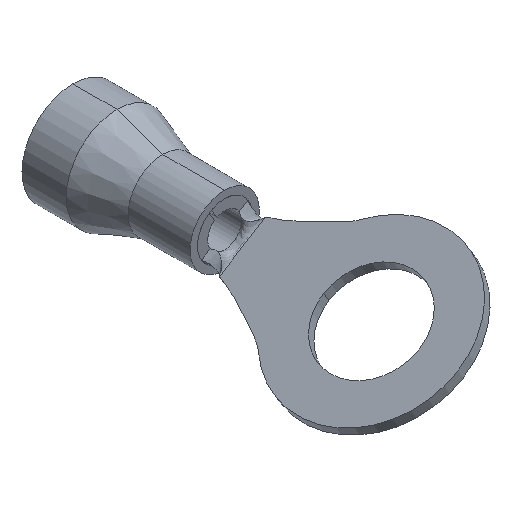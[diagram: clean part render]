
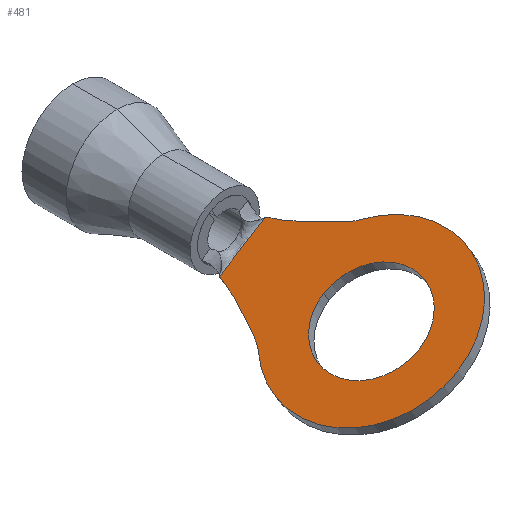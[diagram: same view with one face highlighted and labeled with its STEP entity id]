
A CAD part, isometric view. The second image highlights one B-rep face of the part: STEP entity #481.
In plain terms, the highlighted planar face has unit normal (-0.525, 0, 0.851) as drawn and (0, 1, 0) by its records, which use the part's own axes.
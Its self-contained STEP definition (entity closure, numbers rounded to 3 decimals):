
#28 = EDGE_CURVE ( 'NONE', #1251, #1223, #411, .T. ) ;
#40 = ORIENTED_EDGE ( 'NONE', *, *, #1105, .F. ) ;
#46 = CIRCLE ( 'NONE', #994, 3.25 ) ;
#54 = DIRECTION ( 'NONE',  ( 0., 0., 1. ) ) ;
#64 = CARTESIAN_POINT ( 'NONE',  ( 1.844, -0.85, 5.025 ) ) ;
#83 = CARTESIAN_POINT ( 'NONE',  ( 4.085, -0.85, 9.563 ) ) ;
#92 = LINE ( 'NONE', #225, #1411 ) ;
#121 = CARTESIAN_POINT ( 'NONE',  ( -1.834, -0.85, 5.013 ) ) ;
#161 = EDGE_CURVE ( 'NONE', #1285, #372, #46, .T. ) ;
#189 = CARTESIAN_POINT ( 'NONE',  ( 1.828, -0.85, 5.009 ) ) ;
#193 = B_SPLINE_CURVE_WITH_KNOTS ( 'NONE', 3,
 ( #83, #1466, #321, #952 ),
 .UNSPECIFIED., .F., .F.,
 ( 4, 4 ),
 ( 0., 0.977 ),
 .UNSPECIFIED. ) ;
#225 = CARTESIAN_POINT ( 'NONE',  ( 1.85, -0.85, 5. ) ) ;
#245 = CARTESIAN_POINT ( 'NONE',  ( -1.848, -0.85, 5.03 ) ) ;
#249 = DIRECTION ( 'NONE',  ( 0., 1., 0. ) ) ;
#272 = CARTESIAN_POINT ( 'NONE',  ( 0., -0.85, 17. ) ) ;
#279 = CARTESIAN_POINT ( 'NONE',  ( -2.78, -0.85, 7.382 ) ) ;
#280 = DIRECTION ( 'NONE',  ( 0., 1., 0. ) ) ;
#297 = DIRECTION ( 'NONE',  ( 0., 1., 0. ) ) ;
#303 = CARTESIAN_POINT ( 'NONE',  ( 1.862, -0.85, 5.066 ) ) ;
#306 = CARTESIAN_POINT ( 'NONE',  ( 1.82, -0.85, 5.003 ) ) ;
#315 = ORIENTED_EDGE ( 'NONE', *, *, #28, .T. ) ;
#321 = CARTESIAN_POINT ( 'NONE',  ( 2.067, -0.85, 6.041 ) ) ;
#333 = CARTESIAN_POINT ( 'NONE',  ( 1.862, -0.85, 5.066 ) ) ;
#368 = CARTESIAN_POINT ( 'NONE',  ( -1.858, -0.85, 5.051 ) ) ;
#372 = VERTEX_POINT ( 'NONE', #1042 ) ;
#381 = CARTESIAN_POINT ( 'NONE',  ( 0., -0.85, 13.75 ) ) ;
#388 = ORIENTED_EDGE ( 'NONE', *, *, #1371, .T. ) ;
#411 = B_SPLINE_CURVE_WITH_KNOTS ( 'NONE', 3,
 ( #1384, #1113, #493, #610 ),
 .UNSPECIFIED., .F., .F.,
 ( 4, 4 ),
 ( 0.023, 1. ),
 .UNSPECIFIED. ) ;
#445 = DIRECTION ( 'NONE',  ( 0., 1., 0. ) ) ;
#481 = ADVANCED_FACE ( 'NONE', ( #1192, #560 ), #923, .T. ) ;
#488 = ORIENTED_EDGE ( 'NONE', *, *, #1036, .T. ) ;
#493 = CARTESIAN_POINT ( 'NONE',  ( -3.448, -0.85, 8.941 ) ) ;
#499 = CARTESIAN_POINT ( 'NONE',  ( -1.861, -0.85, 5.06 ) ) ;
#529 = EDGE_CURVE ( 'NONE', #1223, #1601, #818, .T. ) ;
#550 = EDGE_LOOP ( 'NONE', ( #488, #1062, #315, #646, #704, #388 ) ) ;
#555 = CARTESIAN_POINT ( 'NONE',  ( 1.86, -0.85, 5.055 ) ) ;
#560 = FACE_BOUND ( 'NONE', #987, .T. ) ;
#610 = CARTESIAN_POINT ( 'NONE',  ( -4.085, -0.85, 9.563 ) ) ;
#646 = ORIENTED_EDGE ( 'NONE', *, *, #529, .T. ) ;
#704 = ORIENTED_EDGE ( 'NONE', *, *, #934, .T. ) ;
#740 = CARTESIAN_POINT ( 'NONE',  ( -1.825, -0.85, 5.006 ) ) ;
#766 = CIRCLE ( 'NONE', #1491, 3.25 ) ;
#770 = ORIENTED_EDGE ( 'NONE', *, *, #161, .F. ) ;
#813 = CARTESIAN_POINT ( 'NONE',  ( 1.85, -0.85, 5.034 ) ) ;
#818 = CIRCLE ( 'NONE', #1405, 5.85 ) ;
#840 = CARTESIAN_POINT ( 'NONE',  ( -1.816, -0.85, 5. ) ) ;
#867 = CARTESIAN_POINT ( 'NONE',  ( -4.085, -0.85, 9.563 ) ) ;
#923 = PLANE ( 'NONE',  #1214 ) ;
#931 = CARTESIAN_POINT ( 'NONE',  ( 1.837, -0.85, 5.016 ) ) ;
#934 = EDGE_CURVE ( 'NONE', #1601, #1424, #193, .T. ) ;
#941 = B_SPLINE_CURVE_WITH_KNOTS ( 'NONE', 3,
 ( #1629, #740, #121, #992, #245, #1127, #368, #1255, #499, #1391 ),
 .UNSPECIFIED., .F., .F.,
 ( 4, 3, 3, 4 ),
 ( 0., 0., 0., 0. ),
 .UNSPECIFIED. ) ;
#952 = CARTESIAN_POINT ( 'NONE',  ( 1.862, -0.85, 5.066 ) ) ;
#972 = CARTESIAN_POINT ( 'NONE',  ( 4.085, -0.85, 9.563 ) ) ;
#987 = EDGE_LOOP ( 'NONE', ( #40, #770 ) ) ;
#992 = CARTESIAN_POINT ( 'NONE',  ( -1.841, -0.85, 5.022 ) ) ;
#994 = AXIS2_PLACEMENT_3D ( 'NONE', #1030, #280, #1162 ) ;
#1030 = CARTESIAN_POINT ( 'NONE',  ( 0., -0.85, 13.75 ) ) ;
#1036 = EDGE_CURVE ( 'NONE', #1174, #1531, #92, .T. ) ;
#1042 = CARTESIAN_POINT ( 'NONE',  ( 0., -0.85, 10.5 ) ) ;
#1062 = ORIENTED_EDGE ( 'NONE', *, *, #1222, .T. ) ;
#1063 = CARTESIAN_POINT ( 'NONE',  ( 1.824, -0.85, 5.006 ) ) ;
#1105 = EDGE_CURVE ( 'NONE', #372, #1285, #766, .T. ) ;
#1113 = CARTESIAN_POINT ( 'NONE',  ( -2.067, -0.85, 6.041 ) ) ;
#1127 = CARTESIAN_POINT ( 'NONE',  ( -1.854, -0.85, 5.04 ) ) ;
#1162 = DIRECTION ( 'NONE',  ( 0., 0., 1. ) ) ;
#1174 = VERTEX_POINT ( 'NONE', #1240 ) ;
#1189 = CARTESIAN_POINT ( 'NONE',  ( 1.816, -0.85, 5. ) ) ;
#1192 = FACE_OUTER_BOUND ( 'NONE', #550, .T. ) ;
#1206 = CARTESIAN_POINT ( 'NONE',  ( 0., -0.85, 13.75 ) ) ;
#1214 = AXIS2_PLACEMENT_3D ( 'NONE', #279, #297, #54 ) ;
#1222 = EDGE_CURVE ( 'NONE', #1531, #1251, #941, .T. ) ;
#1223 = VERTEX_POINT ( 'NONE', #867 ) ;
#1240 = CARTESIAN_POINT ( 'NONE',  ( 1.816, -0.85, 5. ) ) ;
#1251 = VERTEX_POINT ( 'NONE', #1396 ) ;
#1255 = CARTESIAN_POINT ( 'NONE',  ( -1.86, -0.85, 5.056 ) ) ;
#1285 = VERTEX_POINT ( 'NONE', #272 ) ;
#1344 = DIRECTION ( 'NONE',  ( 0., 0., 1. ) ) ;
#1367 = DIRECTION ( 'NONE',  ( -1., 0., 0. ) ) ;
#1371 = EDGE_CURVE ( 'NONE', #1424, #1174, #1464, .T. ) ;
#1384 = CARTESIAN_POINT ( 'NONE',  ( -1.862, -0.85, 5.066 ) ) ;
#1391 = CARTESIAN_POINT ( 'NONE',  ( -1.862, -0.85, 5.066 ) ) ;
#1396 = CARTESIAN_POINT ( 'NONE',  ( -1.862, -0.85, 5.066 ) ) ;
#1400 = DIRECTION ( 'NONE',  ( 0., 0., 1. ) ) ;
#1405 = AXIS2_PLACEMENT_3D ( 'NONE', #381, #249, #1400 ) ;
#1411 = VECTOR ( 'NONE', #1367, 1000. ) ;
#1424 = VERTEX_POINT ( 'NONE', #333 ) ;
#1464 = B_SPLINE_CURVE_WITH_KNOTS ( 'NONE', 3,
 ( #303, #555, #1576, #813, #64, #931, #189, #1063, #306, #1189 ),
 .UNSPECIFIED., .F., .F.,
 ( 4, 3, 3, 4 ),
 ( 0., 0., 0., 0. ),
 .UNSPECIFIED. ) ;
#1466 = CARTESIAN_POINT ( 'NONE',  ( 3.448, -0.85, 8.941 ) ) ;
#1491 = AXIS2_PLACEMENT_3D ( 'NONE', #1206, #445, #1344 ) ;
#1531 = VERTEX_POINT ( 'NONE', #840 ) ;
#1576 = CARTESIAN_POINT ( 'NONE',  ( 1.856, -0.85, 5.044 ) ) ;
#1601 = VERTEX_POINT ( 'NONE', #972 ) ;
#1629 = CARTESIAN_POINT ( 'NONE',  ( -1.816, -0.85, 5. ) ) ;
